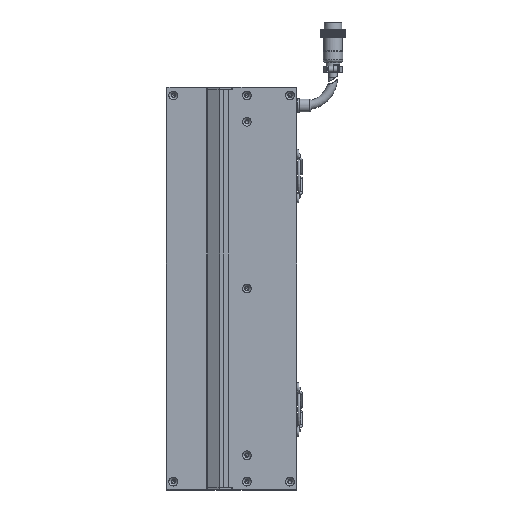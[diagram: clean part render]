
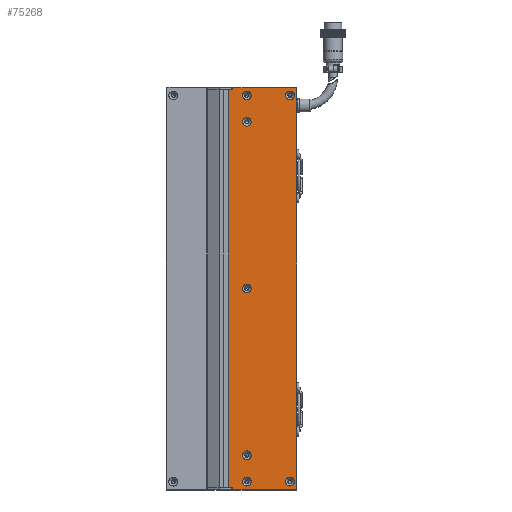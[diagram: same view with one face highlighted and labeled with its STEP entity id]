
A CAD part, left-side view. The second image highlights one B-rep face of the part: STEP entity #75268.
In plain terms, the highlighted planar face has unit normal (-1, 0, 0).
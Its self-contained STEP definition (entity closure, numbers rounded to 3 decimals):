
#336 = FACE_OUTER_BOUND ( 'NONE', #116617, .T. ) ;
#1376 = CARTESIAN_POINT ( 'NONE',  ( -24.998, -72.5, 143. ) ) ;
#1791 = DIRECTION ( 'NONE',  ( 1., 0., 0. ) ) ;
#1864 = VECTOR ( 'NONE', #100424, 1000. ) ;
#1896 = DIRECTION ( 'NONE',  ( -1., 0., 0. ) ) ;
#2590 = LINE ( 'NONE', #32032, #102196 ) ;
#2746 = EDGE_CURVE ( 'NONE', #104250, #104250, #25932, .T. ) ;
#3170 = CARTESIAN_POINT ( 'NONE',  ( -24.998, -36.5, -120. ) ) ;
#3218 = CARTESIAN_POINT ( 'NONE',  ( -24.998, -23.25, -143. ) ) ;
#3723 = CARTESIAN_POINT ( 'NONE',  ( -24.998, -26.5, -144.5 ) ) ;
#4120 = ORIENTED_EDGE ( 'NONE', *, *, #32708, .T. ) ;
#7447 = VERTEX_POINT ( 'NONE', #70903 ) ;
#7710 = EDGE_CURVE ( 'NONE', #98154, #98154, #110492, .T. ) ;
#7800 = EDGE_LOOP ( 'NONE', ( #121356 ) ) ;
#9855 = DIRECTION ( 'NONE',  ( 0., 0., -1. ) ) ;
#13434 = EDGE_CURVE ( 'NONE', #86104, #86104, #43823, .T. ) ;
#13782 = DIRECTION ( 'NONE',  ( -1., 0., 0. ) ) ;
#13819 = AXIS2_PLACEMENT_3D ( 'NONE', #38404, #96960, #58641 ) ;
#14039 = CARTESIAN_POINT ( 'NONE',  ( -24.998, -23.25, -143. ) ) ;
#14344 = AXIS2_PLACEMENT_3D ( 'NONE', #3170, #1896, #88348 ) ;
#15905 = VERTEX_POINT ( 'NONE', #97551 ) ;
#16067 = VERTEX_POINT ( 'NONE', #27032 ) ;
#16770 = VERTEX_POINT ( 'NONE', #89916 ) ;
#16990 = FACE_BOUND ( 'NONE', #7800, .T. ) ;
#21465 = FACE_BOUND ( 'NONE', #58295, .T. ) ;
#23055 = FACE_BOUND ( 'NONE', #120608, .T. ) ;
#23700 = EDGE_CURVE ( 'NONE', #69665, #33811, #27655, .T. ) ;
#23997 = DIRECTION ( 'NONE',  ( 0., 0., 1. ) ) ;
#24523 = FACE_BOUND ( 'NONE', #111023, .T. ) ;
#25932 = CIRCLE ( 'NONE', #13819, 3.15 ) ;
#27032 = CARTESIAN_POINT ( 'NONE',  ( -24.998, -72., 144.5 ) ) ;
#27655 = LINE ( 'NONE', #14039, #1864 ) ;
#27813 = EDGE_LOOP ( 'NONE', ( #103812 ) ) ;
#28050 = ORIENTED_EDGE ( 'NONE', *, *, #100029, .F. ) ;
#29664 = VECTOR ( 'NONE', #80134, 1000. ) ;
#30761 = ORIENTED_EDGE ( 'NONE', *, *, #75028, .F. ) ;
#31328 = CARTESIAN_POINT ( 'NONE',  ( -24.998, -36.5, 123.15 ) ) ;
#32032 = CARTESIAN_POINT ( 'NONE',  ( -24.998, -72., 143. ) ) ;
#32439 = ORIENTED_EDGE ( 'NONE', *, *, #65597, .F. ) ;
#32708 = EDGE_CURVE ( 'NONE', #16067, #16770, #112682, .T. ) ;
#33099 = CARTESIAN_POINT ( 'NONE',  ( -24.998, -72.5, -143. ) ) ;
#33508 = DIRECTION ( 'NONE',  ( 0., 0., -1. ) ) ;
#33523 = AXIS2_PLACEMENT_3D ( 'NONE', #1376, #1791, #38991 ) ;
#33811 = VERTEX_POINT ( 'NONE', #110572 ) ;
#34345 = CARTESIAN_POINT ( 'NONE',  ( -24.998, -72.5, -144.5 ) ) ;
#35264 = VERTEX_POINT ( 'NONE', #63470 ) ;
#35717 = DIRECTION ( 'NONE',  ( -1., 0., 0. ) ) ;
#35903 = VERTEX_POINT ( 'NONE', #3723 ) ;
#36562 = DIRECTION ( 'NONE',  ( 0., 0., 1. ) ) ;
#36653 = EDGE_CURVE ( 'NONE', #16770, #15905, #83622, .T. ) ;
#37931 = ORIENTED_EDGE ( 'NONE', *, *, #36653, .T. ) ;
#38404 = CARTESIAN_POINT ( 'NONE',  ( -24.998, -36.5, 139. ) ) ;
#38761 = VECTOR ( 'NONE', #85720, 1000. ) ;
#38991 = DIRECTION ( 'NONE',  ( 0., 0., -1. ) ) ;
#43258 = CARTESIAN_POINT ( 'NONE',  ( -24.998, -67.5, -139. ) ) ;
#43823 = CIRCLE ( 'NONE', #14344, 3.15 ) ;
#45865 = EDGE_CURVE ( 'NONE', #35903, #35264, #103747, .T. ) ;
#46424 = ORIENTED_EDGE ( 'NONE', *, *, #23700, .F. ) ;
#48100 = CARTESIAN_POINT ( 'NONE',  ( -24.998, -36.5, 142.15 ) ) ;
#49053 = CARTESIAN_POINT ( 'NONE',  ( -24.998, -26.5, 136. ) ) ;
#49145 = ORIENTED_EDGE ( 'NONE', *, *, #83989, .F. ) ;
#49845 = DIRECTION ( 'NONE',  ( 0., 0., 1. ) ) ;
#54483 = EDGE_CURVE ( 'NONE', #79341, #35903, #115018, .T. ) ;
#56697 = EDGE_CURVE ( 'NONE', #125261, #125261, #124798, .T. ) ;
#58045 = VECTOR ( 'NONE', #9855, 1000. ) ;
#58295 = EDGE_LOOP ( 'NONE', ( #85762 ) ) ;
#58559 = VECTOR ( 'NONE', #110649, 1000. ) ;
#58641 = DIRECTION ( 'NONE',  ( 0., 0., 1. ) ) ;
#60056 = PLANE ( 'NONE',  #33523 ) ;
#60557 = CARTESIAN_POINT ( 'NONE',  ( -24.998, -26.5, -143. ) ) ;
#61753 = DIRECTION ( 'NONE',  ( 0., -1., 0. ) ) ;
#62326 = CARTESIAN_POINT ( 'NONE',  ( -24.998, -67.5, 139. ) ) ;
#63470 = CARTESIAN_POINT ( 'NONE',  ( -24.998, -72., -144.5 ) ) ;
#63807 = ORIENTED_EDGE ( 'NONE', *, *, #113153, .T. ) ;
#64836 = VECTOR ( 'NONE', #61753, 1000. ) ;
#65597 = EDGE_CURVE ( 'NONE', #7447, #7447, #114845, .T. ) ;
#66042 = CARTESIAN_POINT ( 'NONE',  ( -24.998, -36.5, 0. ) ) ;
#67688 = AXIS2_PLACEMENT_3D ( 'NONE', #62326, #119678, #23997 ) ;
#69665 = VERTEX_POINT ( 'NONE', #3218 ) ;
#70100 = EDGE_CURVE ( 'NONE', #35264, #16067, #2590, .T. ) ;
#70903 = CARTESIAN_POINT ( 'NONE',  ( -24.998, -67.5, 142.15 ) ) ;
#71306 = CARTESIAN_POINT ( 'NONE',  ( -24.998, -36.5, 3.15 ) ) ;
#71448 = CARTESIAN_POINT ( 'NONE',  ( -24.998, -36.5, -116.85 ) ) ;
#74490 = AXIS2_PLACEMENT_3D ( 'NONE', #66042, #35717, #36562 ) ;
#75028 = EDGE_CURVE ( 'NONE', #84411, #84411, #101489, .T. ) ;
#75268 = ADVANCED_FACE ( 'NONE', ( #78733, #110469, #24523, #16990, #21465, #81768, #23055, #336 ), #60056, .F. ) ;
#77785 = AXIS2_PLACEMENT_3D ( 'NONE', #43258, #13782, #82877 ) ;
#78400 = CARTESIAN_POINT ( 'NONE',  ( -24.998, -36.5, -135.85 ) ) ;
#78733 = FACE_BOUND ( 'NONE', #121700, .T. ) ;
#79341 = VERTEX_POINT ( 'NONE', #60557 ) ;
#80134 = DIRECTION ( 'NONE',  ( 0., -1., 0. ) ) ;
#81076 = CARTESIAN_POINT ( 'NONE',  ( -24.998, -26.5, -136. ) ) ;
#81768 = FACE_BOUND ( 'NONE', #84201, .T. ) ;
#82877 = DIRECTION ( 'NONE',  ( 0., 0., 1. ) ) ;
#83622 = LINE ( 'NONE', #49053, #58045 ) ;
#83989 = EDGE_CURVE ( 'NONE', #91910, #91910, #91633, .T. ) ;
#84201 = EDGE_LOOP ( 'NONE', ( #84679 ) ) ;
#84411 = VERTEX_POINT ( 'NONE', #118171 ) ;
#84679 = ORIENTED_EDGE ( 'NONE', *, *, #13434, .F. ) ;
#85720 = DIRECTION ( 'NONE',  ( 0., 1., 0. ) ) ;
#85762 = ORIENTED_EDGE ( 'NONE', *, *, #56697, .F. ) ;
#86104 = VERTEX_POINT ( 'NONE', #71448 ) ;
#86142 = CARTESIAN_POINT ( 'NONE',  ( -24.998, -72.5, 144.5 ) ) ;
#86751 = AXIS2_PLACEMENT_3D ( 'NONE', #89453, #117769, #98333 ) ;
#88348 = DIRECTION ( 'NONE',  ( 0., 0., 1. ) ) ;
#89396 = CARTESIAN_POINT ( 'NONE',  ( -24.998, -72.5, 143. ) ) ;
#89453 = CARTESIAN_POINT ( 'NONE',  ( -24.998, -36.5, -139. ) ) ;
#89916 = CARTESIAN_POINT ( 'NONE',  ( -24.998, -26.5, 144.5 ) ) ;
#91633 = CIRCLE ( 'NONE', #74490, 3.15 ) ;
#91910 = VERTEX_POINT ( 'NONE', #71306 ) ;
#93934 = AXIS2_PLACEMENT_3D ( 'NONE', #108418, #98284, #49845 ) ;
#96960 = DIRECTION ( 'NONE',  ( -1., 0., 0. ) ) ;
#97551 = CARTESIAN_POINT ( 'NONE',  ( -24.998, -26.5, 143. ) ) ;
#98154 = VERTEX_POINT ( 'NONE', #78400 ) ;
#98284 = DIRECTION ( 'NONE',  ( -1., 0., 0. ) ) ;
#98333 = DIRECTION ( 'NONE',  ( 0., 0., 1. ) ) ;
#98557 = ORIENTED_EDGE ( 'NONE', *, *, #70100, .T. ) ;
#100029 = EDGE_CURVE ( 'NONE', #33811, #15905, #109632, .T. ) ;
#100424 = DIRECTION ( 'NONE',  ( 0., 0., 1. ) ) ;
#101489 = CIRCLE ( 'NONE', #77785, 3.15 ) ;
#102196 = VECTOR ( 'NONE', #118861, 1000. ) ;
#103747 = LINE ( 'NONE', #34345, #58559 ) ;
#103812 = ORIENTED_EDGE ( 'NONE', *, *, #7710, .F. ) ;
#104250 = VERTEX_POINT ( 'NONE', #48100 ) ;
#108418 = CARTESIAN_POINT ( 'NONE',  ( -24.998, -36.5, 120. ) ) ;
#108939 = VECTOR ( 'NONE', #33508, 1000. ) ;
#109632 = LINE ( 'NONE', #89396, #29664 ) ;
#110043 = LINE ( 'NONE', #33099, #64836 ) ;
#110469 = FACE_BOUND ( 'NONE', #27813, .T. ) ;
#110492 = CIRCLE ( 'NONE', #86751, 3.15 ) ;
#110572 = CARTESIAN_POINT ( 'NONE',  ( -24.998, -23.25, 143. ) ) ;
#110649 = DIRECTION ( 'NONE',  ( 0., -1., 0. ) ) ;
#111023 = EDGE_LOOP ( 'NONE', ( #32439 ) ) ;
#112682 = LINE ( 'NONE', #86142, #38761 ) ;
#113153 = EDGE_CURVE ( 'NONE', #69665, #79341, #110043, .T. ) ;
#113872 = ORIENTED_EDGE ( 'NONE', *, *, #54483, .T. ) ;
#114845 = CIRCLE ( 'NONE', #67688, 3.15 ) ;
#115018 = LINE ( 'NONE', #81076, #108939 ) ;
#116617 = EDGE_LOOP ( 'NONE', ( #63807, #113872, #119639, #98557, #4120, #37931, #28050, #46424 ) ) ;
#117769 = DIRECTION ( 'NONE',  ( -1., 0., 0. ) ) ;
#118171 = CARTESIAN_POINT ( 'NONE',  ( -24.998, -67.5, -135.85 ) ) ;
#118861 = DIRECTION ( 'NONE',  ( 0., 0., 1. ) ) ;
#119639 = ORIENTED_EDGE ( 'NONE', *, *, #45865, .T. ) ;
#119678 = DIRECTION ( 'NONE',  ( -1., 0., 0. ) ) ;
#120608 = EDGE_LOOP ( 'NONE', ( #49145 ) ) ;
#121356 = ORIENTED_EDGE ( 'NONE', *, *, #2746, .F. ) ;
#121700 = EDGE_LOOP ( 'NONE', ( #30761 ) ) ;
#124798 = CIRCLE ( 'NONE', #93934, 3.15 ) ;
#125261 = VERTEX_POINT ( 'NONE', #31328 ) ;
